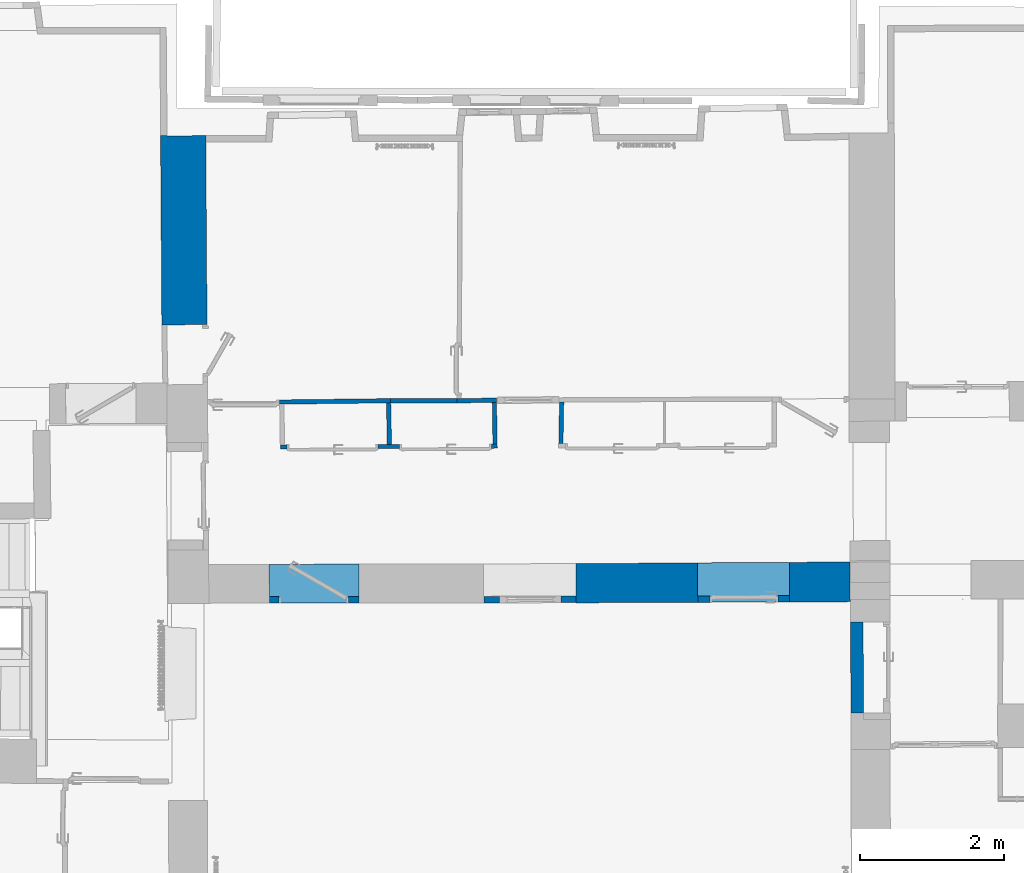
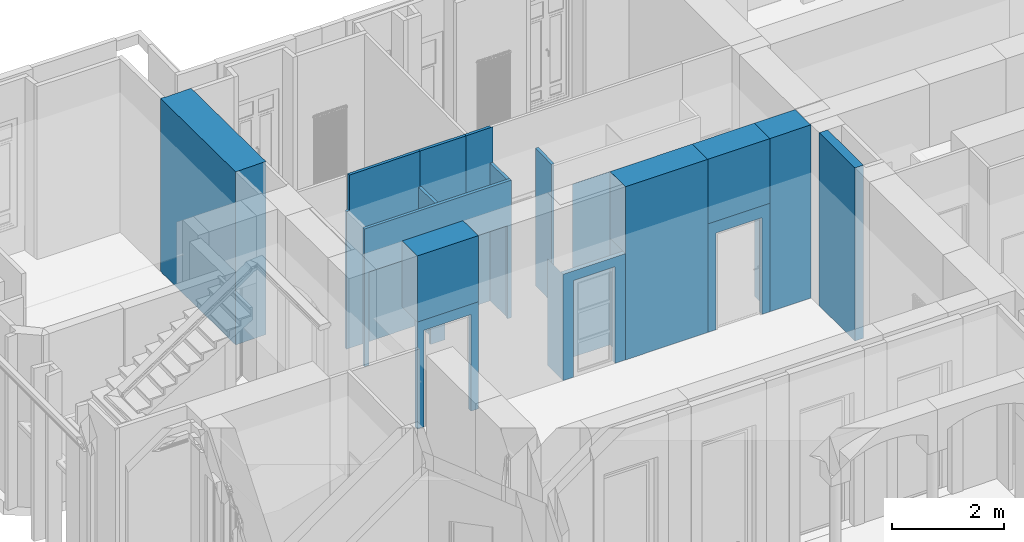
# One storey, part 9 of 66: 16 walls, 5 openings.
"""IFC2X3 building model written with IfcOpenShell, lengths in centimetres."""

import ifcopenshell
import ifcopenshell.guid

model = None  # the IFC model being written
_history = None  # IfcOwnerHistory: only IFC2X3 demands one
_inside = {}  # id of a spatial element -> (the spatial element, [elements in it])
_under = {}  # id of a project, library or spatial element -> (it, [spatial elements below it])
_declared = {}  # id of a project -> (the project, [libraries it declares])
_typed = {}  # id of a type object -> (the type object, [elements of that type])
_made_of = {}  # id of a material, layer set ... -> (it, [elements and type objects made of it])


def new_model(schema):
    """Start an empty IFC model of exactly this schema.

    Asked for "IFC4X3", IfcOpenShell would pick the latest addendum, in which some entities
    have other attributes; the version numbers below select the first issue.
    IFC2X3 requires an IfcOwnerHistory on every rooted entity: one is made here for all.
    """
    global model, _history
    if schema == "IFC4X3":
        model = ifcopenshell.file(schema_version=(4, 3, 0, 0))
    else:
        model = ifcopenshell.file(schema=schema)
    _inside.clear()
    _under.clear()
    _declared.clear()
    _typed.clear()
    _made_of.clear()
    _history = None
    if model.schema == "IFC2X3":
        org = make("IfcOrganization", Name="unknown")
        user = make(
            "IfcPersonAndOrganization",
            ThePerson=make("IfcPerson", FamilyName="unknown"),
            TheOrganization=org,
        )
        app = make(
            "IfcApplication",
            ApplicationDeveloper=org,
            Version="unknown",
            ApplicationFullName="unknown",
            ApplicationIdentifier="unknown",
        )
        _history = make(
            "IfcOwnerHistory",
            OwningUser=user,
            OwningApplication=app,
            ChangeAction="ADDED",
            CreationDate=0,
        )
    return model


def make(cls, **values):
    """One entity of the class cls with the attributes given. An attribute that is None is left unset."""
    return model.create_entity(
        cls, **{name: value for name, value in values.items() if value is not None}
    )


def entity(cls, *values):
    """Any entity or typed value of the class cls, its attributes in the order of the schema. None: left unset."""
    e = model.create_entity(cls)
    for i, value in enumerate(values):
        if value is not None:
            e[i] = value
    return e


def rooted(cls, **values):
    """An entity with a GlobalId (a new one), such as an element, a storey or a relation."""
    return make(cls, GlobalId=ifcopenshell.guid.new(), OwnerHistory=_history, **values)


def si_unit(unit_type, name, prefix=None):
    """IfcSIUnit, for example si_unit("LENGTHUNIT", "METRE", prefix="MILLI")."""
    return make("IfcSIUnit", UnitType=unit_type, Prefix=prefix, Name=name)


def converted_unit(unit_type, name, factor, base, dimensions=None, offset=None):
    """IfcConversionBasedUnit, such as the inch: factor (a typed value) times the base unit."""
    return make(
        "IfcConversionBasedUnit"
        if offset is None
        else "IfcConversionBasedUnitWithOffset",
        ConversionOffset=offset,
        Dimensions=None
        if dimensions is None
        else entity("IfcDimensionalExponents", *dimensions),
        UnitType=unit_type,
        Name=name,
        ConversionFactor=make(
            "IfcMeasureWithUnit", ValueComponent=factor, UnitComponent=base
        ),
    )


def assignment(units):
    """IfcUnitAssignment: the units of a project."""
    return None if units is None else make("IfcUnitAssignment", Units=units)


def point(xyz):
    """IfcCartesianPoint."""
    return None if xyz is None else make("IfcCartesianPoint", Coordinates=xyz)


def direction(xyz):
    """IfcDirection."""
    return None if xyz is None else make("IfcDirection", DirectionRatios=xyz)


def frame(location, z_axis=None, x_axis=None):
    """IfcAxis2Placement3D, a coordinate frame: its origin and axes. An axis left out is left unset."""
    return make(
        "IfcAxis2Placement3D",
        Location=point(location),
        Axis=direction(z_axis),
        RefDirection=direction(x_axis),
    )


def frame_2d(location, x_axis=None):
    """IfcAxis2Placement2D, a coordinate frame in the plane: its origin and x axis."""
    return make(
        "IfcAxis2Placement2D", Location=point(location), RefDirection=direction(x_axis)
    )


def origin():
    """The frame at (0, 0, 0) with its axes left unset."""
    return frame((0.0, 0.0, 0.0))


def origin_with_axes():
    """The frame at (0, 0, 0) with the z axis (0, 0, 1) and the x axis (1, 0, 0) written out."""
    return frame((0.0, 0.0, 0.0), z_axis=(0.0, 0.0, 1.0), x_axis=(1.0, 0.0, 0.0))


def origin_2d_with_axis():
    """The frame at (0, 0) in the plane with the x axis (1, 0) written out."""
    return frame_2d((0.0, 0.0), x_axis=(1.0, 0.0))


def place(relative_to, where):
    """IfcLocalPlacement: puts the frame where relative to a parent placement (None: the world)."""
    return make(
        "IfcLocalPlacement", PlacementRelTo=relative_to, RelativePlacement=where
    )


def context(
    kind, dimensions, precision=None, world=None, true_north=None, identifier=None
):
    """IfcGeometricRepresentationContext, for example the 3D "Model" context."""
    return make(
        "IfcGeometricRepresentationContext",
        ContextIdentifier=identifier,
        ContextType=kind,
        CoordinateSpaceDimension=dimensions,
        Precision=precision,
        WorldCoordinateSystem=world,
        TrueNorth=true_north,
    )


def subcontext(parent, identifier, kind, view, scale=None):
    """IfcGeometricRepresentationSubContext, for example "Body" below "Model"."""
    return make(
        "IfcGeometricRepresentationSubContext",
        ContextIdentifier=identifier,
        ContextType=kind,
        ParentContext=parent,
        TargetScale=scale,
        TargetView=view,
    )


def project(units=None, contexts=None):
    """IfcProject with its units and contexts."""
    return rooted(
        "IfcProject",
        Name="project",
        RepresentationContexts=contexts,
        UnitsInContext=assignment(units),
    )


def spatial(cls, under=None, at=None, **own):
    """A site, building, storey or space (cls), placed at a placement, below another one or the project."""
    s = rooted(cls, ObjectPlacement=at, **own)
    if under is not None:
        _under.setdefault(under.id(), (under, []))[1].append(s)
    return s


def polyline(points):
    """IfcPolyline through the points."""
    return make("IfcPolyline", Points=[point(p) for p in points])


def profile(cls, at=None, kind="AREA", **sizes):
    """A parametric profile (cls). Its sizes go by their IFC names, for example OverallWidth=200.0."""
    return make(cls, ProfileType=kind, Position=at, **sizes)


def rectangle(**sizes):
    """IfcRectangleProfileDef."""
    return profile("IfcRectangleProfileDef", **sizes)


def outline(outer, holes=None, kind="AREA"):
    """IfcArbitraryClosedProfileDef: a profile drawn as a closed curve; with holes, ...WithVoids."""
    if holes is None:
        return make("IfcArbitraryClosedProfileDef", ProfileType=kind, OuterCurve=outer)
    return make(
        "IfcArbitraryProfileDefWithVoids",
        ProfileType=kind,
        OuterCurve=outer,
        InnerCurves=holes,
    )


def extrude(swept, where, along, depth):
    """IfcExtrudedAreaSolid: the profile swept, set in the frame where, extruded along a direction by depth."""
    return make(
        "IfcExtrudedAreaSolid",
        SweptArea=swept,
        Position=where,
        ExtrudedDirection=direction(along),
        Depth=depth,
    )


def clip(a, b, op="DIFFERENCE"):
    """IfcBooleanClippingResult: the solid a cut by the half space b."""
    return make(
        "IfcBooleanClippingResult", Operator=op, FirstOperand=a, SecondOperand=b
    )


def bounded_halfspace(plane, agree, where, boundary):
    """IfcPolygonalBoundedHalfSpace: a half space limited to a polygon's prism."""
    return make(
        "IfcPolygonalBoundedHalfSpace",
        BaseSurface=make("IfcPlane", Position=plane),
        AgreementFlag=agree,
        Position=where,
        PolygonalBoundary=boundary,
    )


def shape(context_of_items, identifier, shape_type, items):
    """IfcShapeRepresentation: the items that make up one representation, for example the "Body"."""
    return make(
        "IfcShapeRepresentation",
        ContextOfItems=context_of_items,
        RepresentationIdentifier=identifier,
        RepresentationType=shape_type,
        Items=items,
    )


def material(Name=None, Category=None):
    """IfcMaterial."""
    return make("IfcMaterial", Name=Name, Category=Category)


def layer(
    of_material, thickness, ventilated=None, Name=None, Category=None, Priority=None
):
    """IfcMaterialLayer: one layer of a wall or slab, of a material (None: an air gap)."""
    return make(
        "IfcMaterialLayer",
        Material=of_material,
        LayerThickness=thickness,
        IsVentilated=ventilated,
        Name=Name,
        Category=Category,
        Priority=Priority,
    )


def layer_set(layers, Name=None):
    """IfcMaterialLayerSet."""
    return make("IfcMaterialLayerSet", MaterialLayers=layers, LayerSetName=Name)


def layer_usage(for_layer_set, set_direction, sense, offset, extent=None):
    """IfcMaterialLayerSetUsage: how a layer set lies in its element."""
    return make(
        "IfcMaterialLayerSetUsage",
        ForLayerSet=for_layer_set,
        LayerSetDirection=set_direction,
        DirectionSense=sense,
        OffsetFromReferenceLine=offset,
        ReferenceExtent=extent,
    )


def made_of(thing, what):
    """Note that an element or type object is made of a material, layer set ...; save() writes the relation."""
    if what is not None:
        _made_of.setdefault(what.id(), (what, []))[1].append(thing)
    return thing


def type_object(cls, material=None, **own):
    """A type object (cls), such as IfcWallType, which elements share."""
    return made_of(rooted(cls, **own), material)


def element(
    cls,
    number,
    at=None,
    inside=None,
    cuts=None,
    type_object=None,
    material=None,
    context=None,
    identifier="Body",
    shape_type=None,
    held_by="IfcProductDefinitionShape",
    body=None,
    shapes=None,
    **own,
):
    """One element of the class cls, such as IfcWall. Its Tag is "e" and its number.

    at: its placement. inside: the storey or other place that contains it. cuts: it is an
    opening in that element (IfcRelVoidsElement). A single representation is given by context,
    identifier, shape_type and body (its items); several are given by shapes. held_by: the class
    of the entity that holds the representations. save() writes the other relations.
    """
    e = rooted(cls, Tag="e%d" % number, ObjectPlacement=at, **own)
    if body is not None:
        shapes = [shape(context, identifier, shape_type, body)]
    if shapes is not None:
        e.Representation = make(held_by, Representations=shapes)
    if inside is not None:
        _inside.setdefault(inside.id(), (inside, []))[1].append(e)
    if cuts is not None:
        rooted(
            "IfcRelVoidsElement", RelatingBuildingElement=cuts, RelatedOpeningElement=e
        )
    if type_object is not None:
        _typed.setdefault(type_object.id(), (type_object, []))[1].append(e)
    return made_of(e, material)


def aggregate(whole, parts):
    """IfcRelAggregates: a whole, such as a stair, and the parts it consists of."""
    return rooted("IfcRelAggregates", RelatingObject=whole, RelatedObjects=parts)


def save(model, path):
    """Write the relations noted so far, then the file.

    IfcRelAggregates (storeys below a building ...), IfcRelContainedInSpatialStructure (elements
    in a storey), IfcRelDefinesByType, IfcRelAssociatesMaterial and IfcRelDeclares: one each for
    every whole, place, type object, material and project.
    """
    for whole, parts in _under.values():
        aggregate(whole, parts)
    for where, things in _inside.values():
        rooted(
            "IfcRelContainedInSpatialStructure",
            RelatedElements=things,
            RelatingStructure=where,
        )
    for kind, things in _typed.values():
        rooted("IfcRelDefinesByType", RelatedObjects=things, RelatingType=kind)
    for what, things in _made_of.values():
        rooted("IfcRelAssociatesMaterial", RelatedObjects=things, RelatingMaterial=what)
    for by, libraries in _declared.values():
        rooted("IfcRelDeclares", RelatingContext=by, RelatedDefinitions=libraries)
    model.write(path)


model = new_model("IFC2X3")

# Units and contexts
model_context = context("Model", 3, precision=0.0001, world=origin(), true_north=direction((0.225632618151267, 0.974212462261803, 0.0)))
body_context = subcontext(model_context, "Body", "Model", "MODEL_VIEW")
footprint_context = subcontext(model_context, "FootPrint", "Model", "MODEL_VIEW")
profile_context = subcontext(model_context, "Profile", "Model", "MODEL_VIEW")
ifc_project = project(units=[si_unit("LENGTHUNIT", "METRE", prefix="CENTI"), si_unit("AREAUNIT", "SQUARE_METRE", prefix="CENTI"), si_unit("VOLUMEUNIT", "CUBIC_METRE", prefix="CENTI"), converted_unit("PLANEANGLEUNIT", "DEGREE", entity("IfcRatioMeasure", 0.0174532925), si_unit("PLANEANGLEUNIT", "RADIAN"), dimensions=[0, 0, 0, 0, 0, 0, 0])], contexts=[model_context])

# Site, building, storey
site_placement = place(None, origin_with_axes())
site = spatial("IfcSite", under=ifc_project, at=site_placement, Name="Default Site", CompositionType="ELEMENT")
building_placement = place(site_placement, origin_with_axes())
building = spatial("IfcBuilding", under=site, at=building_placement, Name="Default Building", CompositionType="ELEMENT")
storey_placement = place(building_placement, frame((0.0, 0.0, 477.795358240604), z_axis=(0.0, 0.0, 1.0), x_axis=(1.0, 0.0, 0.0)))
storey = spatial("IfcBuildingStorey", under=building, at=storey_placement, Name="Niveau 1", CompositionType="ELEMENT", Elevation=477.795358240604)

# Wall, opening
ifc_material = material(Name="<aucun>")
ifc_layer_1 = layer(ifc_material, 9.0)
ifc_layer_set_1 = layer_set([ifc_layer_1], Name="default")
ifc_layer_usage_1 = layer_usage(ifc_layer_set_1, "AXIS2", "POSITIVE", -4.5)
wall_type_1 = type_object("IfcWallType", Name="default 90", PredefinedType="NOTDEFINED", material=ifc_layer_set_1)
wall_1_placement = place(storey_placement, frame((-274.921767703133, -91.1886084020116, 0.0128503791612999), z_axis=(0.0, 0.0, 1.0), x_axis=(0.999994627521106, 0.00327794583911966, 0.0)))
wall_1 = element("IfcWallStandardCase", 1, at=wall_1_placement, inside=storey, type_object=wall_type_1, material=ifc_layer_usage_1, Name="Enveloppe 104933", context=body_context, shape_type="SweptSolid", body=[
    extrude(outline(polyline([(0.0829575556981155, 49.9835869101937), (-0.0340282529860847, -4.49970996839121), (128.251153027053, -4.49990290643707), (128.251314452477, -4.78886104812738), (128.360917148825, -4.78922032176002), (128.307742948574, 49.8897780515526), (128.200828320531, 49.8895146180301), (128.244968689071, 4.50000000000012), (0.0852958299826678, 4.5), (0.18295732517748, 49.9833721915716), (0.0829575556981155, 49.9835869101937)])), frame((0.0, 0.0, -4.44089209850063e-13), z_axis=(0.0, 0.0, 1.0), x_axis=(1.0, 0.0, 0.0)), (0.0, 0.0, 1.0), 230.987149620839),
])
opening_1_placement = place(wall_1_placement, frame((21.7648275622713, 1.4210854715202e-14, 0.0), z_axis=(0.0, 0.0, 1.0), x_axis=(-1.0, -7.55905754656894e-16, 0.0)))
cartesian_point_1 = entity("IfcCartesianPoint", [0.0, 0.0, 210.0])
cartesian_point_2 = entity("IfcCartesianPoint", [-85.5625698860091, -4.5])
element("IfcOpeningElement", 2, at=opening_1_placement, cuts=wall_1, Name="4294966429_11", ObjectType="Opening", shapes=[
    shape(body_context, "Body", "SweptSolid", [extrude(outline(polyline([(0.0, 210.0), (0.0, 0.0), (85.5625698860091, 0.0), (85.5625698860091, 210.0), (0.0, 210.0)])), frame((0.0, -14.5, 0.0), z_axis=(0.0, 1.0, 0.0), x_axis=(-1.0, 0.0, 0.0)), (0.0, 0.0, 1.0), 29.0)]),
    shape(profile_context, "Profile", "GeometricCurveSet", [entity("IfcGeometricCurveSet", [entity("IfcPolyline", [cartesian_point_1, entity("IfcCartesianPoint", [0.0, 0.0, 0.0]), entity("IfcCartesianPoint", [-85.5625698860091, 0.0, 0.0]), entity("IfcCartesianPoint", [-85.5625698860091, 0.0, 210.0]), cartesian_point_1])])]),
    shape(footprint_context, "FootPrint", "GeometricCurveSet", [entity("IfcGeometricCurveSet", [entity("IfcPolyline", [cartesian_point_2, entity("IfcCartesianPoint", [0.0, -4.5]), entity("IfcCartesianPoint", [-4.44089209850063e-14, 4.49999999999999]), entity("IfcCartesianPoint", [-85.5625698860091, 4.49999999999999]), cartesian_point_2])])]),
])

ifc_layer_usage_2 = layer_usage(ifc_layer_set_1, "AXIS2", "POSITIVE", -4.5)
wall_2_placement = place(storey_placement, frame((-574.319762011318, -91.5271465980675, 0.0128503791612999), z_axis=(0.0, 0.0, 1.0), x_axis=(0.999999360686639, 0.00113076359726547, 0.0)))
wall_2 = element("IfcWallStandardCase", 3, at=wall_2_placement, inside=storey, type_object=wall_type_1, material=ifc_layer_usage_2, Name="Enveloppe 106893", context=body_context, shape_type="SweptSolid", body=[
    extrude(rectangle(XDim=125.193795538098, YDim=8.99999999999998, at=origin_2d_with_axis()), frame((62.5968977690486, -5.44009282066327e-13, -4.44089209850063e-13), z_axis=(0.0, 0.0, 1.0), x_axis=(1.0, -8.6161546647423e-15, 0.0)), (0.0, 0.0, 1.0), 232.487149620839),
])
opening_2_placement = place(wall_2_placement, frame((13.5662108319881, -1.27897692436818e-13, -2.66453525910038e-13), z_axis=(0.0, 0.0, 1.0), x_axis=(1.0, -8.70397504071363e-15, 0.0)))
cartesian_point_3 = entity("IfcCartesianPoint", [8.88178419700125e-14, -1.11022302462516e-14, 209.88327721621])
cartesian_point_4 = entity("IfcCartesianPoint", [96.831934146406, 4.49999999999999])
element("IfcOpeningElement", 4, at=opening_2_placement, cuts=wall_2, Name="4294966400_11", ObjectType="Opening", shapes=[
    shape(body_context, "Body", "SweptSolid", [extrude(outline(polyline([(-8.88178419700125e-14, 209.88327721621), (-8.88178419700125e-14, 0.0), (96.8319341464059, 0.0), (96.831934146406, 209.88327721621), (-8.88178419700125e-14, 209.88327721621)])), frame((0.0, 14.5, 0.0), z_axis=(0.0, -1.0, 0.0), x_axis=(1.0, 0.0, 0.0)), (0.0, 0.0, 1.0), 29.0)]),
    shape(profile_context, "Profile", "GeometricCurveSet", [entity("IfcGeometricCurveSet", [entity("IfcPolyline", [cartesian_point_3, entity("IfcCartesianPoint", [0.0, -1.11022302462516e-14, 0.0]), entity("IfcCartesianPoint", [96.8319341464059, -1.11022302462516e-14, 0.0]), entity("IfcCartesianPoint", [96.8319341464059, -1.11022302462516e-14, 209.88327721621]), cartesian_point_3])])]),
    shape(footprint_context, "FootPrint", "GeometricCurveSet", [entity("IfcGeometricCurveSet", [entity("IfcPolyline", [cartesian_point_4, entity("IfcCartesianPoint", [-8.88178419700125e-14, 4.49999999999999]), entity("IfcCartesianPoint", [0.0, -4.5]), entity("IfcCartesianPoint", [96.8319341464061, -4.5]), cartesian_point_4])])]),
])

ifc_layer_usage_3 = layer_usage(ifc_layer_set_1, "AXIS2", "POSITIVE", -4.5)
wall_3_placement = place(storey_placement, frame((22.8627529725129, -90.3369383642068, 0.0128503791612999), z_axis=(0.0, 0.0, 1.0), x_axis=(0.999990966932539, 0.004250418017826, 0.0)))
wall_3 = element("IfcWallStandardCase", 5, at=wall_3_placement, inside=storey, type_object=wall_type_1, material=ifc_layer_usage_3, Name="Enveloppe 111427", context=body_context, shape_type="SweptSolid", body=[
    extrude(rectangle(XDim=127.842642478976, YDim=9.00009351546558, at=origin_2d_with_axis()), frame((64.0626546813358, 4.67577327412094e-05, -1.77635683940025e-13), z_axis=(0.0, 0.0, 1.0), x_axis=(1.0, -1.02348685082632e-16, 0.0)), (0.0, 0.0, 1.0), 235.487149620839),
])
opening_3_placement = place(wall_3_placement, frame((16.7915567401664, -1.4210854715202e-14, -1.78523862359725e-13), z_axis=(0.0, 0.0, 1.0), x_axis=(1.0, -2.63677968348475e-16, 0.0)))
cartesian_point_5 = entity("IfcCartesianPoint", [1.66533453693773e-14, 1.11022302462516e-14, 209.883277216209])
cartesian_point_6 = entity("IfcCartesianPoint", [95.1134092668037, 4.50000000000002])
element("IfcOpeningElement", 6, at=opening_3_placement, cuts=wall_3, Name="4294966396_11", ObjectType="Opening", shapes=[
    shape(body_context, "Body", "SweptSolid", [extrude(outline(polyline([(2.22044604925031e-14, 209.883277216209), (0.0, -8.88178419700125e-14), (95.1134092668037, -8.88178419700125e-14), (95.1134092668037, 209.883277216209), (2.22044604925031e-14, 209.883277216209)])), frame((0.0, 14.5, 0.0), z_axis=(0.0, -1.0, 0.0), x_axis=(1.0, 0.0, 0.0)), (0.0, 0.0, 1.0), 29.0)]),
    shape(profile_context, "Profile", "GeometricCurveSet", [entity("IfcGeometricCurveSet", [entity("IfcPolyline", [cartesian_point_5, entity("IfcCartesianPoint", [-5.55111512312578e-15, 1.11022302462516e-14, -8.88178419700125e-14]), entity("IfcCartesianPoint", [95.1134092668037, 1.11022302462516e-14, -8.88178419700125e-14]), entity("IfcCartesianPoint", [95.1134092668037, 1.11022302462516e-14, 209.883277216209]), cartesian_point_5])])]),
    shape(footprint_context, "FootPrint", "GeometricCurveSet", [entity("IfcGeometricCurveSet", [entity("IfcPolyline", [cartesian_point_6, entity("IfcCartesianPoint", [0.0, 4.50000000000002]), entity("IfcCartesianPoint", [0.0, -4.49999999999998]), entity("IfcCartesianPoint", [95.1134092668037, -4.49999999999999]), cartesian_point_6])])]),
])

# Walls
ifc_layer_2 = layer(ifc_material, 6.0)
ifc_layer_set_2 = layer_set([ifc_layer_2], Name="default")
ifc_layer_usage_4 = layer_usage(ifc_layer_set_2, "AXIS2", "POSITIVE", -3.0)
wall_type_2 = type_object("IfcWallType", Name="default 60", PredefinedType="NOTDEFINED", material=ifc_layer_set_2)
wall_4_placement = place(storey_placement, frame((-553.871658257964, 184.340370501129, 0.0128503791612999), z_axis=(0.0, 0.0, 1.0), x_axis=(0.999927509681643, 0.0120405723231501, 0.0)))
element("IfcWallStandardCase", 7, at=wall_4_placement, inside=storey, type_object=wall_type_2, material=ifc_layer_usage_4, Name="Enveloppe 92438", context=body_context, shape_type="Clipping", body=[
    clip(clip(clip(clip(clip(clip(clip(extrude(outline(polyline([(-6.08493940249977, -2.91737526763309), (-5.98494784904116, -2.91866737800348), (-5.98473943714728, -3.00000000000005), (148.771591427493, -2.99999999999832), (148.850416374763, 2.95946448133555), (-6.00388171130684, 2.99999999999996), (-6.08493940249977, -2.91737526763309)])), frame((0.0, 0.0, 8.88178419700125e-14), z_axis=(0.0, 0.0, 1.0), x_axis=(1.0, 0.0, 0.0)), (0.0, 0.0, 1.0), 376.102165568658), bounded_halfspace(frame((145.749957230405, -2.99999999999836, 298.702165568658), z_axis=(0.0, 0.0, 1.0), x_axis=(0.999899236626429, -0.014195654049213, 0.0)), True, frame((145.749957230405, -2.99999999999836, 298.702165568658), z_axis=(0.0, 0.0, 1.0), x_axis=(1.0, 0.0, 0.0)), polyline([(8.88178419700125e-14, 0.0), (0.0525997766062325, -0.000746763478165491), (8.88178419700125e-14, 0.0)]))), bounded_halfspace(frame((145.881911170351, 2.99872845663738, 298.702165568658), z_axis=(0.0, 0.0, 1.0), x_axis=(-0.999919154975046, 0.0127154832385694, 0.0)), True, frame((145.881911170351, 2.99872845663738, 298.702165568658), z_axis=(0.0, 0.0, 1.0), x_axis=(1.0, 0.0, 0.0)), polyline([(-0.0999912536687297, 0.0013225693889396), (8.88178419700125e-14, 0.0), (-0.0999912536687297, 0.0013225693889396)]))), bounded_halfspace(frame((-5.9849467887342, -2.91857932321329, 298.702165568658), z_axis=(0.0, 0.0, -1.0), x_axis=(0.999906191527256, -0.0136970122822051, 0.0)), True, frame((-5.9849467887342, -2.91857932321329, 298.702165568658), z_axis=(0.0, 0.0, 1.0), x_axis=(1.0, 0.0, 0.0)), polyline([(-0.0999906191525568, 0.00136970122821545), (0.0531535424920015, -0.000728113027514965), (0.134237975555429, 5.91857932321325), (-0.018934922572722, 5.91857932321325), (-0.0999906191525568, 0.00136970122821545)]))), bounded_halfspace(frame((148.850416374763, 2.95946448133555, 298.702165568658), z_axis=(0.0, 0.0, -1.0), x_axis=(-0.999912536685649, 0.0132256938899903, 0.0)), True, frame((148.850416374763, 2.95946448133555, 298.702165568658), z_axis=(0.0, 0.0, 1.0), x_axis=(1.0, 0.0, 0.0)), polyline([(-3.04785936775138, -5.96021124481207), (-0.0788249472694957, -5.95946448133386), (0.0, -2.22044604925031e-14), (-2.96850520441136, 0.0392639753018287), (-3.04785936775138, -5.96021124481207)]))), bounded_halfspace(frame((-5.98473943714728, -3.00000000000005, 298.702165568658), z_axis=(0.0, 0.0, -1.0), x_axis=(1.0, 1.69916164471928e-14, 0.0)), True, frame((-5.98473943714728, -3.00000000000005, 298.702165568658), z_axis=(0.0, 0.0, 1.0), x_axis=(1.0, 0.0, 0.0)), polyline([(0.0, 0.0), (5.98473943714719, 1.11022302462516e-13), (5.98473943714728, 6.00000000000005), (0.134030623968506, 6.00000000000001), (0.0529461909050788, 0.0806925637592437), (-0.000207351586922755, 0.0814206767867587), (0.0, 0.0)]))), bounded_halfspace(frame((0.0, 3.0, 356.102165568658), z_axis=(0.0, 0.0, -1.0), x_axis=(1.0, 1.13242748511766e-14, 0.0)), True, frame((0.0, 3.0, 356.102165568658), z_axis=(0.0, 0.0, 1.0), x_axis=(1.0, 0.0, 0.0)), polyline([(0.0, 0.0), (145.781919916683, 5.10260263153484e-05), (0.0, 0.0)]))), bounded_halfspace(frame((145.749956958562, -3.00005103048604, 356.102165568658), z_axis=(0.0, 0.0, -1.0), x_axis=(-0.999999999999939, 3.50123506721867e-07, 0.0)), True, frame((145.749956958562, -3.00005103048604, 356.102165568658), z_axis=(0.0, 0.0, 1.0), x_axis=(1.0, 0.0, 0.0)), polyline([(-145.749956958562, 5.10304860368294e-05), (2.71842992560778e-07, 5.10304876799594e-05), (-145.749956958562, 5.10304860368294e-05)]))),
])
ifc_layer_usage_5 = layer_usage(ifc_layer_set_2, "AXIS2", "POSITIVE", -3.0)
wall_5_placement = place(storey_placement, frame((-168.045495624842, 120.32045508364, 0.0128503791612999), z_axis=(0.0, 0.0, 1.0), x_axis=(0.0184251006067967, 0.999830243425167, 0.0)))
element("IfcWallStandardCase", 8, at=wall_5_placement, inside=storey, type_object=wall_type_2, material=ifc_layer_usage_5, Name="Enveloppe 104800", context=body_context, shape_type="SweptSolid", body=[
    extrude(outline(polyline([(5.85402153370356, 3.00000000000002), (5.98789342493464, -3.0), (64.0078422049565, -2.99999999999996), (63.8739703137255, 3.00000000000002), (5.85402153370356, 3.00000000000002)])), frame((0.0, 0.0, -2.66453525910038e-13), z_axis=(0.0, 0.0, 1.0), x_axis=(1.0, 0.0, 0.0)), (0.0, 0.0, 1.0), 298.702165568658),
])
ifc_layer_usage_6 = layer_usage(ifc_layer_set_2, "AXIS2", "POSITIVE", -3.0)
wall_6_placement = place(storey_placement, frame((-259.577423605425, 119.905710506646, 0.0128503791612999), z_axis=(0.0, 0.0, 1.0), x_axis=(-0.0162807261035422, 0.999867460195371, 0.0)))
element("IfcWallStandardCase", 9, at=wall_6_placement, inside=storey, type_object=wall_type_2, material=ifc_layer_usage_6, Name="Enveloppe 104771", context=body_context, shape_type="SweptSolid", body=[
    extrude(outline(polyline([(63.9895528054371, 2.9999999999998), (6.01654653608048, 2.99999999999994), (5.94214687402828, -3.00000000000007), (63.9521184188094, -3.00000000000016), (63.9945159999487, 0.872058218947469), (63.9895528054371, 2.9999999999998)])), origin_with_axes(), (0.0, 0.0, 1.0), 298.702165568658),
])
ifc_layer_usage_7 = layer_usage(ifc_layer_set_2, "AXIS2", "POSITIVE", -3.0)
wall_7_placement = place(storey_placement, frame((-406.907032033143, 125.31174868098, 0.0128503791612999), z_axis=(0.0, 0.0, 1.0), x_axis=(-0.0202166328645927, 0.999795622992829, 0.0)))
element("IfcWallStandardCase", 10, at=wall_7_placement, inside=storey, type_object=wall_type_2, material=ifc_layer_usage_7, Name="Enveloppe 103947", context=body_context, shape_type="SweptSolid", body=[
    extrude(outline(polyline([(57.8203452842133, 2.99999999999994), (0.0519254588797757, 3.00000000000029), (-0.0480745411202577, -2.99999999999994), (57.7312692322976, -3.00000000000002), (57.7960139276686, 0.0245350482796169), (57.8203452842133, 2.99999999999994)])), frame((0.0, 0.0, -2.66453525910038e-13), z_axis=(0.0, 0.0, 1.0), x_axis=(1.0, 0.0, 0.0)), (0.0, 0.0, 1.0), 298.702165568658),
])
ifc_layer_usage_8 = layer_usage(ifc_layer_set_2, "AXIS2", "POSITIVE", -3.0)
wall_8_placement = place(storey_placement, frame((-309.81970092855, 185.978973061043, 0.0128503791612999), z_axis=(0.0, 0.0, 1.0), x_axis=(-0.999999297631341, 0.00118521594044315, 0.0)))
element("IfcWallStandardCase", 11, at=wall_8_placement, inside=storey, type_object=wall_type_2, material=ifc_layer_usage_8, Name="Enveloppe 103995", context=body_context, shape_type="Clipping", body=[
    clip(extrude(outline(polyline([(98.2203522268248, 3.00000000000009), (3.09040677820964, 3.00000000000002), (3.0904067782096, -2.93880488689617), (-1.77635683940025e-12, -3.0), (98.2203522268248, -2.99999999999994), (98.2203522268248, 3.00000000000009)])), frame((0.0, 0.0, -3.5527136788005e-13), z_axis=(0.0, 0.0, 1.0), x_axis=(1.0, 0.0, 0.0)), (0.0, 0.0, 1.0), 376.102165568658), bounded_halfspace(frame((98.2203522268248, -2.99999999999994, 298.702165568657), z_axis=(0.0, 0.0, 1.0), x_axis=(-1.0, -8.92688700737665e-15, 0.0)), True, frame((98.2203522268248, -2.99999999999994, 298.702165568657), z_axis=(0.0, 0.0, 1.0), x_axis=(1.0, 0.0, 0.0)), polyline([(-2.96876486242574, -6.66133814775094e-14), (-2.96876486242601, 5.95998576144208), (8.88178419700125e-14, 6.00000000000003), (8.88178419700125e-14, 0.0), (-2.96876486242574, -6.66133814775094e-14)]))),
])
ifc_layer_usage_9 = layer_usage(ifc_layer_set_2, "AXIS2", "POSITIVE", -3.0)
wall_9_placement = place(storey_placement, frame((-309.760307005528, 185.979490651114, 0.0128503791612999), z_axis=(0.0, 0.0, 1.0), x_axis=(0.999826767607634, 0.0186127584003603, 0.0)))
element("IfcWallStandardCase", 12, at=wall_9_placement, inside=storey, type_object=wall_type_2, material=ifc_layer_usage_9, Name="Enveloppe 103902", context=body_context, shape_type="Clipping", body=[
    clip(clip(extrude(outline(polyline([(-3.20858761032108, -2.93764091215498), (-0.0593990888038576, -2.99999999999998), (52.194296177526, -3.00000000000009), (52.2819037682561, 2.94644722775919), (48.2727665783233, 2.99999999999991), (-3.09101260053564, 2.99999999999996), (-3.20858761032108, -2.93764091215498)])), frame((0.0, 0.0, 8.88178419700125e-14), z_axis=(0.0, 0.0, 1.0), x_axis=(1.0, 0.0, 0.0)), (0.0, 0.0, 1.0), 376.102165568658), bounded_halfspace(frame((48.3801752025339, 3.00393046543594, 298.702165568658), z_axis=(0.0, 0.0, 1.0), x_axis=(-0.99922911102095, -0.039257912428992, 0.0)), True, frame((48.3801752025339, 3.00393046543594, 298.702165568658), z_axis=(0.0, 0.0, 1.0), x_axis=(1.0, 0.0, 0.0)), polyline([(-0.0999891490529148, 0.00147311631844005), (0.0, 2.22044604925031e-14), (-0.0999891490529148, 0.00147311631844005)]))), bounded_halfspace(frame((52.2819037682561, 2.94644722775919, 298.702165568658), z_axis=(0.0, 0.0, -1.0), x_axis=(-0.999891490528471, 0.0147311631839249, 0.0)), True, frame((52.2819037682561, 2.94644722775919, 298.702165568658), z_axis=(0.0, 0.0, 1.0), x_axis=(1.0, 0.0, 0.0)), polyline([(-3.9901155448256, -5.94186570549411), (-0.087607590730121, -5.94644722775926), (0.0, 0.0), (-3.90172856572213, 0.0574832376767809), (-3.9901155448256, -5.94186570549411)]))),
])

# Wall, openings
ifc_layer_usage_10 = layer_usage(ifc_layer_set_2, "AXIS2", "POSITIVE", -3.0)
wall_10_placement = place(storey_placement, frame((-552.94528217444, 121.745720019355, 0.0128503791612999), z_axis=(0.0, 0.0, 1.0), x_axis=(0.99999246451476, 0.00388212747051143, 0.0)))
wall_10 = element("IfcWallStandardCase", 13, at=wall_10_placement, inside=storey, type_object=wall_type_2, material=ifc_layer_usage_10, Name="Enveloppe 92552", context=body_context, shape_type="SweptSolid", body=[
    extrude(outline(polyline([(143.048601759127, 2.99999999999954), (-6.0380302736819, 3.00000000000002), (-5.97379547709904, -2.99999999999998), (143.048601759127, -3.00000000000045), (296.358997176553, -3.00000000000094), (296.284597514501, 2.99999999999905), (143.048601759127, 2.99999999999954)])), frame((0.0, 0.0, -1.77635683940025e-13), z_axis=(0.0, 0.0, 1.0), x_axis=(1.0, 0.0, 0.0)), (0.0, 0.0, 1.0), 298.702165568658),
])
opening_4_placement = place(wall_10_placement, frame((3.21560700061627, 1.4210854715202e-14, 0.0), z_axis=(0.0, 0.0, 1.0), x_axis=(-1.0, 3.18191653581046e-15, 0.0)))
cartesian_point_7 = entity("IfcCartesianPoint", [0.0, 2.22044604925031e-14, 202.4])
cartesian_point_8 = entity("IfcCartesianPoint", [-126.803955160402, -3.0])
element("IfcOpeningElement", 14, at=opening_4_placement, cuts=wall_10, Name="4294966398_11", ObjectType="Opening", shapes=[
    shape(body_context, "Body", "SweptSolid", [extrude(outline(polyline([(0.0, 202.4), (0.0, 0.0), (126.803955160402, 0.0), (126.803955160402, 202.4), (0.0, 202.4)])), frame((0.0, -13.0, 0.0), z_axis=(0.0, 1.0, 0.0), x_axis=(-1.0, 0.0, 0.0)), (0.0, 0.0, 1.0), 26.0)]),
    shape(profile_context, "Profile", "GeometricCurveSet", [entity("IfcGeometricCurveSet", [entity("IfcPolyline", [cartesian_point_7, entity("IfcCartesianPoint", [0.0, 2.22044604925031e-14, 0.0]), entity("IfcCartesianPoint", [-126.803955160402, 0.0, 0.0]), entity("IfcCartesianPoint", [-126.803955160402, 0.0, 202.4]), cartesian_point_7])])]),
    shape(footprint_context, "FootPrint", "GeometricCurveSet", [entity("IfcGeometricCurveSet", [entity("IfcPolyline", [cartesian_point_8, entity("IfcCartesianPoint", [0.0, -2.99999999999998]), entity("IfcCartesianPoint", [-8.88178419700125e-14, 3.0]), entity("IfcCartesianPoint", [-126.803955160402, 3.0]), cartesian_point_8])])]),
])
opening_5_placement = place(wall_10_placement, frame((160.076203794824, -4.9737991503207e-13, -2.66453525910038e-13), z_axis=(0.0, 0.0, 1.0), x_axis=(-1.0, 3.17020715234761e-15, 0.0)))
cartesian_point_9 = entity("IfcCartesianPoint", [-8.88178419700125e-14, 0.0, 202.4])
cartesian_point_10 = entity("IfcCartesianPoint", [-128.214921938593, -3.0])
element("IfcOpeningElement", 15, at=opening_5_placement, cuts=wall_10, Name="4294966397_11", ObjectType="Opening", shapes=[
    shape(body_context, "Body", "SweptSolid", [extrude(outline(polyline([(8.88178419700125e-14, 202.4), (8.88178419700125e-14, 0.0), (128.214921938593, 0.0), (128.214921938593, 202.4), (8.88178419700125e-14, 202.4)])), frame((0.0, -13.0, 0.0), z_axis=(0.0, 1.0, 0.0), x_axis=(-1.0, 0.0, 0.0)), (0.0, 0.0, 1.0), 26.0)]),
    shape(profile_context, "Profile", "GeometricCurveSet", [entity("IfcGeometricCurveSet", [entity("IfcPolyline", [cartesian_point_9, entity("IfcCartesianPoint", [-8.88178419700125e-14, 0.0, 0.0]), entity("IfcCartesianPoint", [-128.214921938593, 2.22044604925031e-14, 0.0]), entity("IfcCartesianPoint", [-128.214921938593, 2.22044604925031e-14, 202.4]), cartesian_point_9])])]),
    shape(footprint_context, "FootPrint", "GeometricCurveSet", [entity("IfcGeometricCurveSet", [entity("IfcPolyline", [cartesian_point_10, entity("IfcCartesianPoint", [-8.88178419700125e-14, -2.99999999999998]), entity("IfcCartesianPoint", [-8.88178419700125e-14, 3.0]), entity("IfcCartesianPoint", [-128.214921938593, 3.0]), cartesian_point_10])])]),
])

# Walls
ifc_layer_3 = layer(ifc_material, 17.5)
ifc_layer_set_3 = layer_set([ifc_layer_3], Name="default")
ifc_layer_usage_11 = layer_usage(ifc_layer_set_3, "AXIS2", "POSITIVE", -8.75)
wall_type_3 = type_object("IfcWallType", Name="default 175", PredefinedType="NOTDEFINED", material=ifc_layer_set_3)
wall_11_placement = place(storey_placement, frame((244.942528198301, -257.826273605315, 0.0128503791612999), z_axis=(0.0, 0.0, 1.0), x_axis=(-0.00303669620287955, 0.999995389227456, 0.0)))
element("IfcWallStandardCase", 16, at=wall_11_placement, inside=storey, type_object=wall_type_3, material=ifc_layer_usage_11, Name="Enveloppe 119881", context=body_context, shape_type="SweptSolid", body=[
    extrude(rectangle(XDim=17.5, YDim=126.432943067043, at=origin_2d_with_axis()), frame((72.2470339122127, -4.44089209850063e-14, -8.88178419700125e-14), z_axis=(0.0, 0.0, 1.0), x_axis=(-4.33680868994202e-19, -1.0, 0.0)), (0.0, 0.0, 1.0), 376.102165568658),
])
ifc_layer_4 = layer(ifc_material, 54.0)
ifc_layer_set_4 = layer_set([ifc_layer_4], Name="default")
ifc_layer_usage_12 = layer_usage(ifc_layer_set_4, "AXIS2", "POSITIVE", -27.0)
wall_type_4 = type_object("IfcWallType", Name="default 540", PredefinedType="NOTDEFINED", material=ifc_layer_set_4)
wall_12_placement = place(storey_placement, frame((150.768192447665, -67.2930913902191, 0.0128503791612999), z_axis=(0.0, 0.0, 1.0), x_axis=(0.999994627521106, 0.00327794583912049, 0.0)))
element("IfcWallStandardCase", 17, at=wall_12_placement, inside=storey, type_object=wall_type_4, material=ifc_layer_usage_12, Name="Enveloppe 92836", context=body_context, shape_type="Clipping", body=[
    clip(clip(clip(extrude(outline(polyline([(-0.0643324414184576, 28.1901246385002), (-0.0643327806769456, -26.9997628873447), (84.8387988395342, -27.0), (84.8396020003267, -23.6708477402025), (84.1176444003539, -23.6684811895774), (84.1176422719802, 28.2934684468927), (64.3718496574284, 28.2934684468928), (-0.0643324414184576, 28.1901246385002)])), frame((0.0, 0.0, -2.66453525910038e-13), z_axis=(0.0, 0.0, 1.0), x_axis=(1.0, 0.0, 0.0)), (0.0, 0.0, 1.0), 376.102165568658), bounded_halfspace(frame((-0.064333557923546, 28.1897840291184, 235.487149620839), z_axis=(0.0, 0.0, 1.0), x_axis=(0.999997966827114, 0.00201651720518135, 0.0)), True, frame((-0.064333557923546, 28.1897840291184, 235.487149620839), z_axis=(0.0, 0.0, 1.0), x_axis=(1.0, 0.0, 0.0)), polyline([(0.0, -46.1898423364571), (-2.22044604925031e-14, 0.0), (0.0643335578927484, 0.000129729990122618), (0.0635838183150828, -46.1897805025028), (0.0, -46.1898423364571)]))), bounded_halfspace(frame((0.00800257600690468, -27.0, 235.487149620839), z_axis=(0.0, 0.0, 1.0), x_axis=(-0.000972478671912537, 0.999999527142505, 0.0)), True, frame((0.00800257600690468, -27.0, 235.487149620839), z_axis=(0.0, 0.0, 1.0), x_axis=(1.0, 0.0, 0.0)), polyline([(0.0, -1.11022302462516e-14), (-0.00875231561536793, 9.00000352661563), (0.0, -1.11022302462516e-14)]))), bounded_halfspace(frame((0.00800257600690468, -27.0, 235.487149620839), z_axis=(0.0, 0.0, 1.0), x_axis=(-0.999999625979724, -0.000864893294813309, 0.0)), True, frame((0.00800257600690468, -27.0, 235.487149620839), z_axis=(0.0, 0.0, 1.0), x_axis=(1.0, 0.0, 0.0)), polyline([(-0.0723361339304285, -6.25630605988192e-05), (-0.0723361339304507, 8.99994169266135), (-0.00875231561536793, 9.00000352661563), (0.0, -1.11022302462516e-14), (-0.0723361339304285, -6.25630605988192e-05)]))),
])
ifc_layer_usage_13 = layer_usage(ifc_layer_set_4, "AXIS2", "POSITIVE", -27.0)
wall_13_placement = place(storey_placement, frame((22.7929673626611, -67.7125895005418, 235.5), z_axis=(0.0, 0.0, 1.0), x_axis=(0.999994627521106, 0.00327794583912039, 0.0)))
element("IfcWallStandardCase", 18, at=wall_13_placement, inside=storey, type_object=wall_type_4, material=ifc_layer_usage_13, Name="Enveloppe 111345", context=body_context, shape_type="SweptSolid", body=[
    extrude(outline(polyline([(-0.112026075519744, 27.8070999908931), (-0.0587249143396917, -26.999272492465), (127.91157907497, -27.0000625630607), (127.91157907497, 28.1898034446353), (-0.0353850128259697, 27.9318476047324), (-0.035792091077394, 27.8076612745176), (-0.112026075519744, 27.8070999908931)])), origin_with_axes(), (0.0, 0.0, 1.0), 140.615015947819),
])
ifc_layer_usage_14 = layer_usage(ifc_layer_set_4, "AXIS2", "POSITIVE", -27.0)
wall_14_placement = place(storey_placement, frame((-146.767516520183, -68.5577411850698, 0.0128503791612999), z_axis=(0.0, 0.0, 1.0), x_axis=(0.999990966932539, 0.00425041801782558, 0.0)))
element("IfcWallStandardCase", 19, at=wall_14_placement, inside=storey, type_object=wall_type_4, material=ifc_layer_usage_14, Name="Enveloppe 111426", context=body_context, shape_type="Clipping", body=[
    clip(clip(clip(clip(clip(extrude(outline(polyline([(-77.0932483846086, 27.7383490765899), (0.106914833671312, 27.4975094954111), (0.106972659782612, -26.986395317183), (0.0269902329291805, -26.9860553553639), (0.0269324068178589, -26.9996600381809), (169.67749976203, -27.0), (169.67749976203, -18.0), (169.618834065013, -17.9997506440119), (169.618833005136, 27.9318476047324), (0.00691483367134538, 27.6788750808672), (0.00673195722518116, 27.8193986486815), (-77.0932483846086, 27.7383490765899)])), frame((0.0, 0.0, -1.77635683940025e-13), z_axis=(0.0, 0.0, 1.0), x_axis=(1.0, 0.0, 0.0)), (0.0, 0.0, 1.0), 376.102165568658), bounded_halfspace(frame((0.00673195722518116, 27.8193986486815, 230.987149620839), z_axis=(0.0, 0.0, 1.0), x_axis=(0.00130139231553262, -0.999999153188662, 0.0)), True, frame((0.00673195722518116, 27.8193986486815, 230.987149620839), z_axis=(0.0, 0.0, 1.0), x_axis=(1.0, 0.0, 0.0)), polyline([(-77.0999803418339, -0.081049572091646), (-2.22044604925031e-14, 0.0), (-0.00673195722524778, -0.321555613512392), (-77.0999803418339, -0.081049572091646)]))), bounded_halfspace(frame((0.10691483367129, -26.9863950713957, 230.987149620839), z_axis=(0.0, 0.0, 1.0), x_axis=(7.48701448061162e-13, -1.0, 0.0)), True, frame((0.10691483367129, -26.9863950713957, 230.987149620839), z_axis=(0.0, 0.0, 1.0), x_axis=(1.0, 0.0, 0.0)), polyline([(-0.0799838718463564, -0.0136049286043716), (-0.0799780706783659, 0.000249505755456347), (0.0, -1.11022302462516e-14), (-2.22044604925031e-14, -0.0136049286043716), (-0.0799838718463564, -0.0136049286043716)]))), bounded_halfspace(frame((0.10691483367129, 27.497509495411, 230.987149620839), z_axis=(0.0, 0.0, 1.0), x_axis=(-0.999995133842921, 0.0031196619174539, 0.0)), True, frame((0.10691483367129, 27.497509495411, 230.987149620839), z_axis=(0.0, 0.0, 1.0), x_axis=(1.0, 0.0, 0.0)), polyline([(-0.106914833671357, 0.000333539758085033), (-0.099999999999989, 0.1813655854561), (-2.22044604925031e-14, 0.181514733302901), (-2.22044604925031e-14, 0.0), (-0.106914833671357, 0.000333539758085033)]))), bounded_halfspace(frame((169.618833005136, -18.0, 235.487149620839), z_axis=(0.0, 0.0, -1.0), x_axis=(-2.00360561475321e-16, 1.0, 0.0)), True, frame((169.618833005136, -18.0, 235.487149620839), z_axis=(0.0, 0.0, 1.0), x_axis=(1.0, 0.0, 0.0)), polyline([(-0.141272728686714, -8.87548900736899), (0.0586667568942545, -8.87568344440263), (0.0586667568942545, -1.11022302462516e-14), (0.0, 0.0), (0.0, 45.9318476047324), (-0.141272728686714, 45.9316368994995), (-0.141272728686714, -8.87548900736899)]))), bounded_halfspace(frame((169.577560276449, -27.0, 235.487149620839), z_axis=(0.0, 0.0, -1.0), x_axis=(1.0, -2.99127042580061e-14, 0.0)), True, frame((169.577560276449, -27.0, 235.487149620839), z_axis=(0.0, 0.0, 1.0), x_axis=(1.0, 0.0, 0.0)), polyline([(-2.22044604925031e-14, -1.11022302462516e-14), (0.0999394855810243, 2.22044604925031e-14), (0.0999394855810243, 0.124316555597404), (0.000120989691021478, 0.12441362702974), (-2.22044604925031e-14, -1.11022302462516e-14)]))),
])
ifc_layer_usage_15 = layer_usage(ifc_layer_set_4, "AXIS2", "POSITIVE", -27.0)
wall_15_placement = place(storey_placement, frame((-574.345204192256, -69.0271609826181, 232.5), z_axis=(0.0, 0.0, 1.0), x_axis=(0.999999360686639, 0.0011307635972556, 0.0)))
element("IfcWallStandardCase", 20, at=wall_15_placement, inside=storey, type_object=wall_type_4, material=ifc_layer_usage_15, Name="Enveloppe 106894", context=body_context, shape_type="SweptSolid", body=[
    extrude(outline(polyline([(1.77635683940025e-13, 27.1128351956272), (8.88178419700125e-14, -27.0), (125.193795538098, -26.9999999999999), (125.193795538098, 27.2591984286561), (1.77635683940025e-13, 27.1128351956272)])), frame((0.0, 0.0, 8.88178419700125e-14), z_axis=(0.0, 0.0, 1.0), x_axis=(1.0, 0.0, 0.0)), (0.0, 0.0, 1.0), 143.615015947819),
])
ifc_layer_5 = layer(ifc_material, 63.0)
ifc_layer_set_5 = layer_set([ifc_layer_5], Name="default")
ifc_layer_usage_16 = layer_usage(ifc_layer_set_5, "AXIS2", "POSITIVE", -31.5)
wall_type_5 = type_object("IfcWallType", Name="default 630", PredefinedType="NOTDEFINED", material=ifc_layer_set_5)
wall_16_placement = place(storey_placement, frame((-692.56179839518, 292.270983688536, 0.0128503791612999), z_axis=(0.0, 0.0, 1.0), x_axis=(-0.00669397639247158, 0.999977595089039, 0.0)))
element("IfcWallStandardCase", 21, at=wall_16_placement, inside=storey, type_object=wall_type_5, material=ifc_layer_usage_16, Name="Enveloppe 93901", context=body_context, shape_type="SweptSolid", body=[
    extrude(outline(polyline([(258.650650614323, 31.5000000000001), (-0.681776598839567, 31.5), (-0.1000000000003, -17.1394901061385), (-0.1000000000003, -31.5000000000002), (263.271630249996, -31.5), (262.552619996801, 22.3416267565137), (263.518957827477, 22.3435858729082), (263.500932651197, 31.3435660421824), (258.650775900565, 31.333741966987), (258.650650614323, 31.5000000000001)])), frame((0.0, 0.0, -2.66453525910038e-13), z_axis=(0.0, 0.0, 1.0), x_axis=(1.0, 0.0, 0.0)), (0.0, 0.0, 1.0), 376.102165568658),
])

save(model, "model.ifc")
